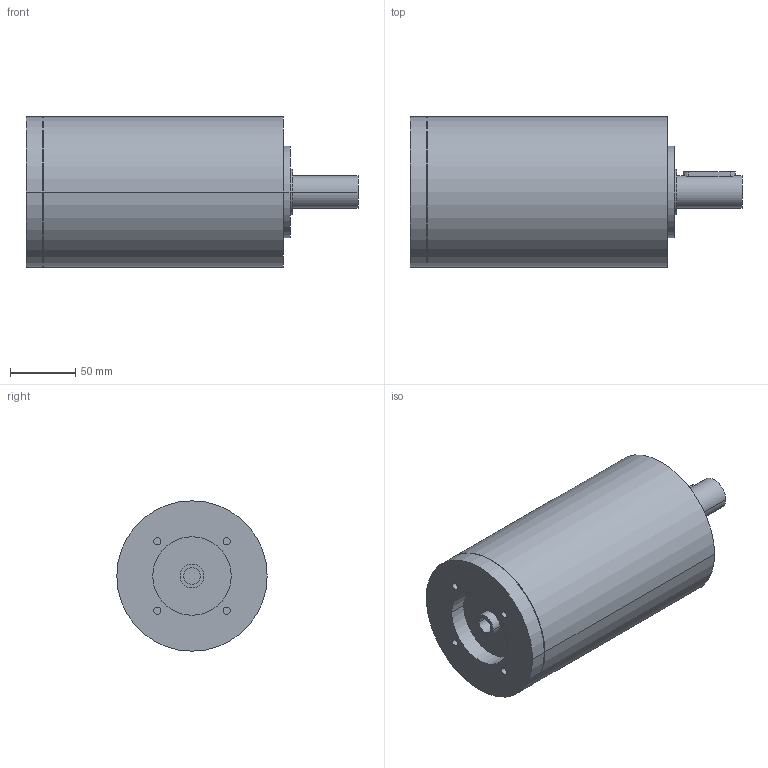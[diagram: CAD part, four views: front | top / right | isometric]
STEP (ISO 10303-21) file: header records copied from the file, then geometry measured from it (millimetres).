
FILE_DESCRIPTION(('CoCreate Modeling STEP Export'),'2;1');
FILE_NAME('GPR125_ig-48-64-80-100-140-196-245-343_25_B14_12.7_P02.stp','2014-08-26T14:20:21',(''),(''),'CoCreate Modeling STEP processor for AP214 (Solid Model)','CoCreate Modeling 16.00C 25-Feb-2009 (C) Parametric Technology GmbH','');
FILE_SCHEMA(('AUTOMOTIVE_DESIGN { 1 0 10303 214 1 1 1 1 }'));
Length unit declared in the file: millimetre
Products named in the file (2): GPR125_ig-48-64-80-100-140-196-245-343_25_B14_12.7_P02
Assembly tree (1 placements, depth 2):
  GPR125_ig-48-64-80-100-140-196-245-343_25_B14_12.7_P02
    GPR125_ig-48-64-80-100-140-196-245-343_25_B14_12.7_P02
Bounding box: 254 x 115 x 115 mm (x, y, z)
Volume: 2047109.3 mm3; surface area: 105676.1 mm2
Topology: 1 solids, 1 shells, 72 faces, 171 edges, 119 vertices
Faces by surface type: cylinder 44, plane 24, cone 4
Entity records: 1795 total; most frequent: ORIENTED_EDGE 338, CARTESIAN_POINT 334, DIRECTION 240, EDGE_CURVE 169, VERTEX_POINT 119, AXIS2_PLACEMENT_3D 93, EDGE_LOOP 92, FACE_OUTER_BOUND 72
